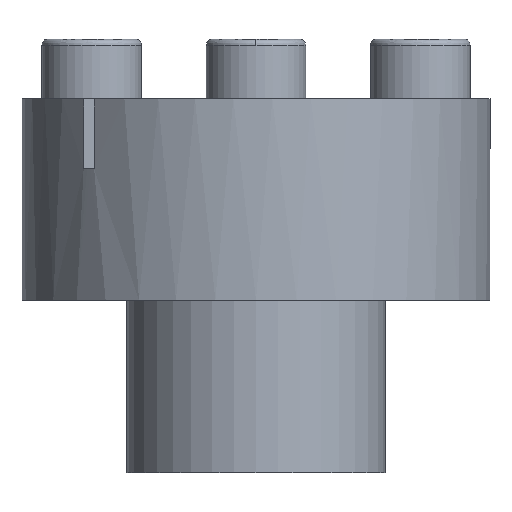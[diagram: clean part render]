
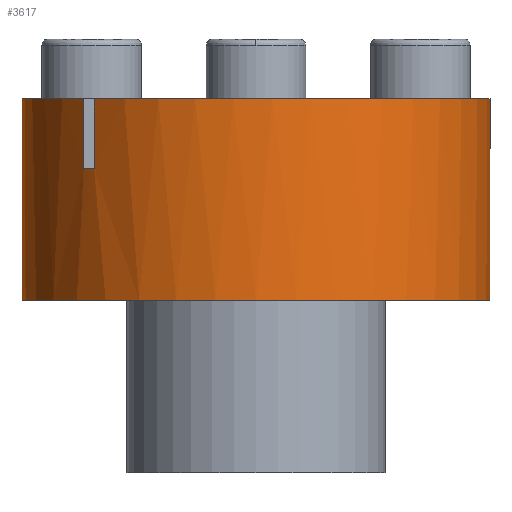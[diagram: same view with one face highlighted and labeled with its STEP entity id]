
A CAD part, front view. The second image highlights one B-rep face of the part: STEP entity #3617.
In plain terms, the highlighted cylindrical face has radius 23.5 mm (diameter 47 mm), a partial arc.
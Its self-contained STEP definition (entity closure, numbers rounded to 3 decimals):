
#34 = ORIENTED_EDGE ( 'NONE', *, *, #250, .T. ) ;
#239 = VERTEX_POINT ( 'NONE', #6363 ) ;
#250 = EDGE_CURVE ( 'NONE', #5406, #3991, #2241, .T. ) ;
#285 = VERTEX_POINT ( 'NONE', #4410 ) ;
#322 = DIRECTION ( 'NONE',  ( 0., 0., -1. ) ) ;
#435 = CARTESIAN_POINT ( 'NONE',  ( 23.5, 0., -8.651 ) ) ;
#468 = DIRECTION ( 'NONE',  ( 0., 0., 1. ) ) ;
#704 = CARTESIAN_POINT ( 'NONE',  ( 0., 0., 11.549 ) ) ;
#726 = CIRCLE ( 'NONE', #6031, 23.5 ) ;
#891 = EDGE_LOOP ( 'NONE', ( #3929, #2731, #4981, #1661, #2136, #5289, #34, #4958 ) ) ;
#898 = FACE_OUTER_BOUND ( 'NONE', #891, .T. ) ;
#1307 = VERTEX_POINT ( 'NONE', #435 ) ;
#1546 = AXIS2_PLACEMENT_3D ( 'NONE', #4878, #468, #5888 ) ;
#1661 = ORIENTED_EDGE ( 'NONE', *, *, #4021, .F. ) ;
#1774 = EDGE_CURVE ( 'NONE', #1307, #6208, #4419, .T. ) ;
#1876 = VERTEX_POINT ( 'NONE', #5594 ) ;
#2136 = ORIENTED_EDGE ( 'NONE', *, *, #2934, .T. ) ;
#2184 = CARTESIAN_POINT ( 'NONE',  ( -17.309, -15.895, 4.549 ) ) ;
#2231 = DIRECTION ( 'NONE',  ( 1., 0., 0. ) ) ;
#2241 = LINE ( 'NONE', #5348, #5574 ) ;
#2254 = EDGE_CURVE ( 'NONE', #3036, #239, #3461, .T. ) ;
#2306 = CIRCLE ( 'NONE', #6558, 23.5 ) ;
#2731 = ORIENTED_EDGE ( 'NONE', *, *, #4579, .T. ) ;
#2780 = DIRECTION ( 'NONE',  ( 1., 0., 0. ) ) ;
#2934 = EDGE_CURVE ( 'NONE', #285, #1876, #3483, .T. ) ;
#2993 = DIRECTION ( 'NONE',  ( 0., 0., 1. ) ) ;
#3036 = VERTEX_POINT ( 'NONE', #5853 ) ;
#3117 = DIRECTION ( 'NONE',  ( 0., 0., 1. ) ) ;
#3169 = AXIS2_PLACEMENT_3D ( 'NONE', #5650, #3117, #2780 ) ;
#3461 = LINE ( 'NONE', #3555, #5177 ) ;
#3483 = LINE ( 'NONE', #5508, #4230 ) ;
#3555 = CARTESIAN_POINT ( 'NONE',  ( -23.5, 0., -21.451 ) ) ;
#3617 = ADVANCED_FACE ( 'NONE', ( #898 ), #5522, .T. ) ;
#3630 = DIRECTION ( 'NONE',  ( 0., 0., -1. ) ) ;
#3895 = CIRCLE ( 'NONE', #5396, 23.5 ) ;
#3929 = ORIENTED_EDGE ( 'NONE', *, *, #2254, .F. ) ;
#3991 = VERTEX_POINT ( 'NONE', #4671 ) ;
#4021 = EDGE_CURVE ( 'NONE', #285, #6208, #2306, .T. ) ;
#4230 = VECTOR ( 'NONE', #322, 1000. ) ;
#4410 = CARTESIAN_POINT ( 'NONE',  ( -16.26, -16.967, 11.549 ) ) ;
#4419 = LINE ( 'NONE', #5994, #6242 ) ;
#4579 = EDGE_CURVE ( 'NONE', #3036, #1307, #726, .T. ) ;
#4671 = CARTESIAN_POINT ( 'NONE',  ( -17.309, -15.895, 11.549 ) ) ;
#4836 = EDGE_CURVE ( 'NONE', #1876, #5406, #3895, .T. ) ;
#4878 = CARTESIAN_POINT ( 'NONE',  ( 0., 0., -21.451 ) ) ;
#4958 = ORIENTED_EDGE ( 'NONE', *, *, #5202, .F. ) ;
#4981 = ORIENTED_EDGE ( 'NONE', *, *, #1774, .T. ) ;
#5047 = DIRECTION ( 'NONE',  ( -1., 0., 0. ) ) ;
#5177 = VECTOR ( 'NONE', #5518, 1000. ) ;
#5181 = DIRECTION ( 'NONE',  ( 0., 0., 1. ) ) ;
#5202 = EDGE_CURVE ( 'NONE', #239, #3991, #6036, .T. ) ;
#5229 = DIRECTION ( 'NONE',  ( 0., 0., 1. ) ) ;
#5242 = DIRECTION ( 'NONE',  ( 0., 0., 1. ) ) ;
#5289 = ORIENTED_EDGE ( 'NONE', *, *, #4836, .T. ) ;
#5348 = CARTESIAN_POINT ( 'NONE',  ( -17.309, -15.895, -21.451 ) ) ;
#5396 = AXIS2_PLACEMENT_3D ( 'NONE', #6190, #3630, #5658 ) ;
#5406 = VERTEX_POINT ( 'NONE', #2184 ) ;
#5508 = CARTESIAN_POINT ( 'NONE',  ( -16.26, -16.967, -21.451 ) ) ;
#5518 = DIRECTION ( 'NONE',  ( 0., 0., 1. ) ) ;
#5522 = CYLINDRICAL_SURFACE ( 'NONE', #1546, 23.5 ) ;
#5526 = CARTESIAN_POINT ( 'NONE',  ( 0., 0., -8.651 ) ) ;
#5574 = VECTOR ( 'NONE', #5229, 1000. ) ;
#5594 = CARTESIAN_POINT ( 'NONE',  ( -16.26, -16.967, 4.549 ) ) ;
#5650 = CARTESIAN_POINT ( 'NONE',  ( 0., 0., 11.549 ) ) ;
#5658 = DIRECTION ( 'NONE',  ( -1., 0., 0. ) ) ;
#5853 = CARTESIAN_POINT ( 'NONE',  ( -23.5, 0., -8.651 ) ) ;
#5888 = DIRECTION ( 'NONE',  ( 1., 0., 0. ) ) ;
#5994 = CARTESIAN_POINT ( 'NONE',  ( 23.5, 0., -21.451 ) ) ;
#6031 = AXIS2_PLACEMENT_3D ( 'NONE', #5526, #2993, #5047 ) ;
#6036 = CIRCLE ( 'NONE', #3169, 23.5 ) ;
#6074 = CARTESIAN_POINT ( 'NONE',  ( 23.5, 0., 11.549 ) ) ;
#6190 = CARTESIAN_POINT ( 'NONE',  ( 0., 0., 4.549 ) ) ;
#6208 = VERTEX_POINT ( 'NONE', #6074 ) ;
#6242 = VECTOR ( 'NONE', #5242, 1000. ) ;
#6363 = CARTESIAN_POINT ( 'NONE',  ( -23.5, 0., 11.549 ) ) ;
#6558 = AXIS2_PLACEMENT_3D ( 'NONE', #704, #5181, #2231 ) ;
